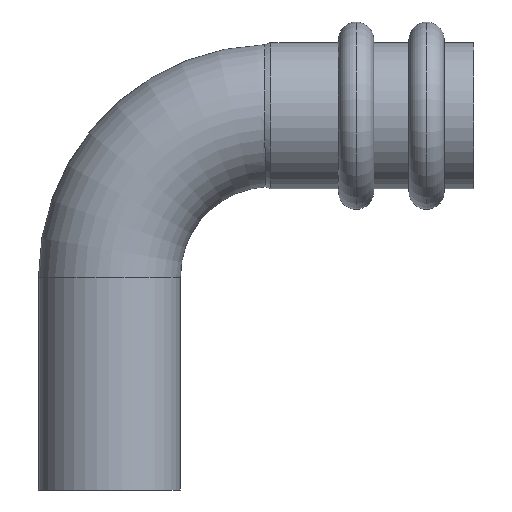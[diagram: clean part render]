
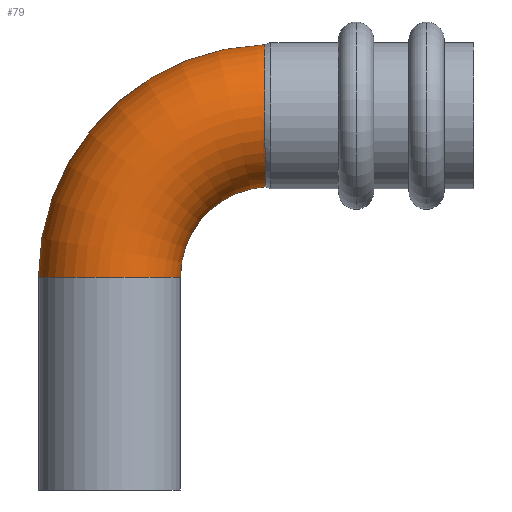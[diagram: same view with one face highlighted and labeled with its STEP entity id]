
A CAD part, front view. The second image highlights one B-rep face of the part: STEP entity #79.
In plain terms, the highlighted toroidal (fillet/blend) face has major radius 27.5 mm and minor radius 12.088 mm.
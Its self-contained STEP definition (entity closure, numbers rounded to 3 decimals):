
#79=ADVANCED_FACE('',(#202),#203,.T.);
#202=FACE_OUTER_BOUND('',#377,.T.);
#203=TOROIDAL_SURFACE('',#378,27.5,12.088);
#377=EDGE_LOOP('',(#553,#554,#555,#556,#557));
#378=AXIS2_PLACEMENT_3D('',#558,#559,#560);
#553=ORIENTED_EDGE('',*,*,#977,.F.);
#554=ORIENTED_EDGE('',*,*,#978,.T.);
#555=ORIENTED_EDGE('',*,*,#979,.T.);
#556=ORIENTED_EDGE('',*,*,#980,.F.);
#557=ORIENTED_EDGE('',*,*,#981,.T.);
#558=CARTESIAN_POINT('',(27.5,0.,36.5));
#559=DIRECTION('',(0.,1.0,0.));
#560=DIRECTION('',(1.0,0.,0.0));
#977=EDGE_CURVE('',#1145,#1146,#1147,.T.);
#978=EDGE_CURVE('',#1145,#1148,#1149,.T.);
#979=EDGE_CURVE('',#1148,#1150,#1151,.T.);
#980=EDGE_CURVE('',#1152,#1150,#1153,.T.);
#981=EDGE_CURVE('',#1152,#1146,#1154,.T.);
#1145=VERTEX_POINT('',#1497);
#1146=VERTEX_POINT('',#1498);
#1147=CIRCLE('',#1499,39.588);
#1148=VERTEX_POINT('',#1500);
#1149=CIRCLE('',#1501,12.088);
#1150=VERTEX_POINT('',#1502);
#1151=CIRCLE('',#1503,12.088);
#1152=VERTEX_POINT('',#1504);
#1153=CIRCLE('',#1505,15.412);
#1154=B_SPLINE_CURVE_WITH_KNOTS('',3,(#1506,#1507,#1508,#1509,#1510,#1511,#1512,#1513,#1514,#1515,#1516,#1517,#1518,#1519,#1520,#1521,#1522,#1523,#1524,#1525),.UNSPECIFIED.,.F.,.F.,(4,2,2,2,2,2,2,2,2,4),(-1.5,-1.453,-1.283,-1.094,-0.912,-0.733,-0.552,-0.37,-0.186,-0.0),.UNSPECIFIED.);
#1497=CARTESIAN_POINT('',(-12.088,0.,36.5));
#1498=CARTESIAN_POINT('',(26.415,0.,76.073));
#1499=AXIS2_PLACEMENT_3D('',#1899,#1900,#1901);
#1500=CARTESIAN_POINT('',(0.,-12.088,36.5));
#1501=AXIS2_PLACEMENT_3D('',#1902,#1903,#1904);
#1502=CARTESIAN_POINT('',(12.088,0.,36.5));
#1503=AXIS2_PLACEMENT_3D('',#1905,#1906,#1907);
#1504=CARTESIAN_POINT('',(26.543,0.,51.882));
#1505=AXIS2_PLACEMENT_3D('',#1908,#1909,#1910);
#1506=CARTESIAN_POINT('',(26.543,0.,51.882));
#1507=CARTESIAN_POINT('',(26.543,-0.4,51.882));
#1508=CARTESIAN_POINT('',(26.543,-0.8,51.902));
#1509=CARTESIAN_POINT('',(26.541,-2.629,52.084));
#1510=CARTESIAN_POINT('',(26.537,-4.022,52.481));
#1511=CARTESIAN_POINT('',(26.524,-6.75,53.817));
#1512=CARTESIAN_POINT('',(26.515,-8.033,54.8));
#1513=CARTESIAN_POINT('',(26.497,-10.102,57.161));
#1514=CARTESIAN_POINT('',(26.488,-10.886,58.501));
#1515=CARTESIAN_POINT('',(26.47,-11.904,61.385));
#1516=CARTESIAN_POINT('',(26.463,-12.135,62.9));
#1517=CARTESIAN_POINT('',(26.449,-12.025,65.946));
#1518=CARTESIAN_POINT('',(26.443,-11.681,67.449));
#1519=CARTESIAN_POINT('',(26.432,-10.444,70.263));
#1520=CARTESIAN_POINT('',(26.428,-9.557,71.545));
#1521=CARTESIAN_POINT('',(26.421,-7.338,73.716));
#1522=CARTESIAN_POINT('',(26.419,-6.023,74.581));
#1523=CARTESIAN_POINT('',(26.416,-3.127,75.767));
#1524=CARTESIAN_POINT('',(26.415,-1.571,76.073));
#1525=CARTESIAN_POINT('',(26.415,0.,76.073));
#1899=CARTESIAN_POINT('',(27.5,0.,36.5));
#1900=DIRECTION('',(0.,1.0,0.));
#1901=DIRECTION('',(0.0,0.,1.0));
#1902=CARTESIAN_POINT('',(0.0,0.,36.5));
#1903=DIRECTION('',(0.,0.,1.0));
#1904=DIRECTION('',(-1.0,0.,0.));
#1905=CARTESIAN_POINT('',(0.0,0.,36.5));
#1906=DIRECTION('',(0.,0.,1.0));
#1907=DIRECTION('',(-1.0,0.,0.));
#1908=CARTESIAN_POINT('',(27.5,0.,36.5));
#1909=DIRECTION('',(0.,-1.0,0.));
#1910=DIRECTION('',(0.0,0.,1.0));
